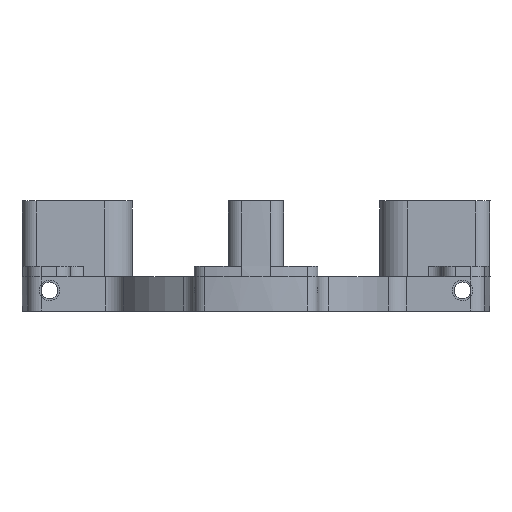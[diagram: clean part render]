
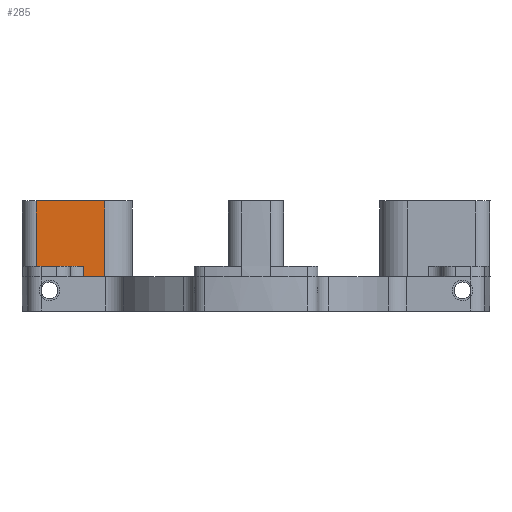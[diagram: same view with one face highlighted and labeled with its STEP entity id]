
A CAD part, front view. The second image highlights one B-rep face of the part: STEP entity #285.
In plain terms, the highlighted planar face has unit normal (0, -1, 0).
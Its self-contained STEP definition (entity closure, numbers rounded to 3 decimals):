
#285=ADVANCED_FACE('',(#535),#2464,.T.);
#535=FACE_OUTER_BOUND('',#796,.F.);
#796=EDGE_LOOP('',(#1337,#1338,#1339,#1340,#1341,#1342,#1343));
#1337=ORIENTED_EDGE('',*,*,#3657,.F.);
#1338=ORIENTED_EDGE('',*,*,#3693,.T.);
#1339=ORIENTED_EDGE('',*,*,#3694,.F.);
#1340=ORIENTED_EDGE('',*,*,#3502,.T.);
#1341=ORIENTED_EDGE('',*,*,#3708,.F.);
#1342=ORIENTED_EDGE('',*,*,#3702,.T.);
#1343=ORIENTED_EDGE('',*,*,#3707,.T.);
#2464=PLANE('',#5073);
#2764=LINE('',#7330,#3104);
#2834=LINE('',#7565,#3174);
#2845=LINE('',#7601,#3185);
#2846=LINE('',#7602,#3186);
#2851=LINE('',#7610,#3191);
#2853=LINE('',#7615,#3193);
#2854=LINE('',#7616,#3194);
#3104=VECTOR('',#5407,4.937);
#3174=VECTOR('',#5615,3.);
#3185=VECTOR('',#5676,1.5);
#3186=VECTOR('',#5677,2.);
#3191=VECTOR('',#5688,9.937);
#3193=VECTOR('',#5696,11.);
#3194=VECTOR('',#5697,9.5);
#3502=EDGE_CURVE('',#4599,#4600,#2764,.T.);
#3657=EDGE_CURVE('',#4653,#4477,#2834,.T.);
#3693=EDGE_CURVE('',#4653,#4459,#2845,.T.);
#3694=EDGE_CURVE('',#4599,#4459,#2846,.T.);
#3702=EDGE_CURVE('',#4452,#4454,#2851,.T.);
#3707=EDGE_CURVE('',#4454,#4477,#2853,.T.);
#3708=EDGE_CURVE('',#4452,#4600,#2854,.T.);
#4452=VERTEX_POINT('',#6738);
#4454=VERTEX_POINT('',#6740);
#4459=VERTEX_POINT('',#6745);
#4477=VERTEX_POINT('',#6763);
#4599=VERTEX_POINT('',#6885);
#4600=VERTEX_POINT('',#6886);
#4653=VERTEX_POINT('',#6939);
#5073=AXIS2_PLACEMENT_3D('',#7889,#6082,#6083);
#5407=DIRECTION('',(-1.,0.,0.));
#5615=DIRECTION('',(1.,0.,0.));
#5676=DIRECTION('',(0.,0.,1.));
#5677=DIRECTION('',(1.,0.,0.));
#5688=DIRECTION('',(1.,0.,0.));
#5696=DIRECTION('',(0.,0.,-1.));
#5697=DIRECTION('',(0.,0.,-1.));
#6082=DIRECTION('',(0.,-1.,0.));
#6083=DIRECTION('',(1.,0.,0.));
#6738=CARTESIAN_POINT('',(252.438,415.252,375.374));
#6740=CARTESIAN_POINT('',(262.375,415.252,375.374));
#6745=CARTESIAN_POINT('',(259.375,415.252,365.874));
#6763=CARTESIAN_POINT('',(262.375,415.252,364.374));
#6885=CARTESIAN_POINT('',(257.375,415.252,365.874));
#6886=CARTESIAN_POINT('',(252.438,415.252,365.874));
#6939=CARTESIAN_POINT('',(259.375,415.252,364.374));
#7330=CARTESIAN_POINT('',(257.375,415.252,365.874));
#7565=CARTESIAN_POINT('',(259.375,415.252,364.374));
#7601=CARTESIAN_POINT('',(259.375,415.252,364.374));
#7602=CARTESIAN_POINT('',(257.375,415.252,365.874));
#7610=CARTESIAN_POINT('',(252.438,415.252,375.374));
#7615=CARTESIAN_POINT('',(262.375,415.252,375.374));
#7616=CARTESIAN_POINT('',(252.438,415.252,375.374));
#7889=CARTESIAN_POINT('',(252.328,415.252,364.264));
